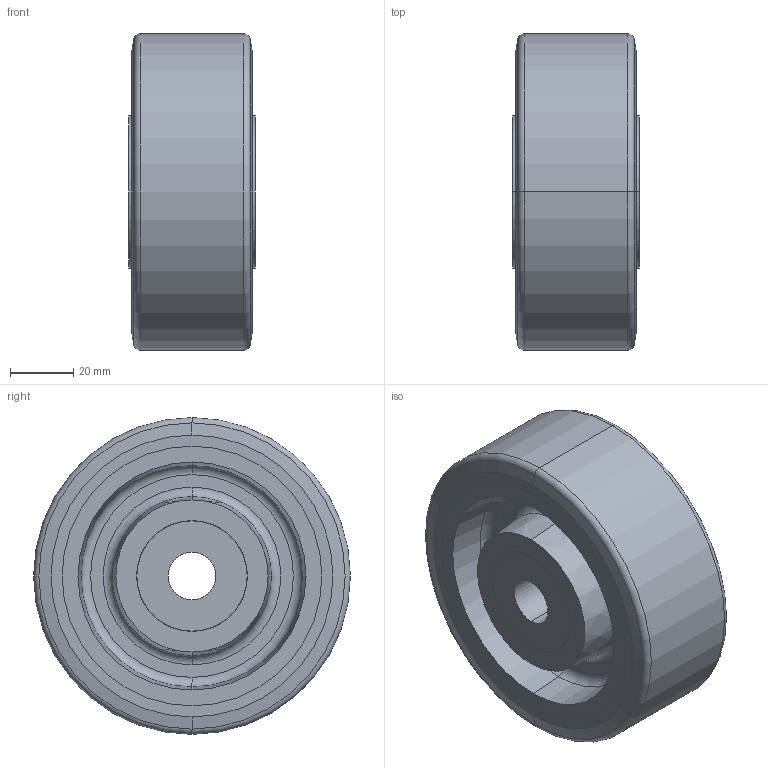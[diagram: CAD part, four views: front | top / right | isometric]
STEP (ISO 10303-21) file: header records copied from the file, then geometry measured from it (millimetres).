
FILE_DESCRIPTION (( 'STEP AP214' ), '1' );
FILE_NAME ('22887-100-K-A.step', '2024-10-28T09:26:58', ( '' ), ( '' ), 'SwSTEP 2.0', 'SolidWorks 2022', '' );
FILE_SCHEMA (( 'AUTOMOTIVE_DESIGN' ));
Length unit declared in the file: millimetre
Products named in the file (1): 22887-100-K-A
Bounding box: 40 x 100 x 100 mm (x, y, z)
Volume: 232087.8 mm3; surface area: 38681.7 mm2
Topology: 1 solids, 1 shells, 64 faces, 128 edges, 80 vertices
Faces by surface type: cylinder 24, plane 16, cone 12, torus 12
Entity records: 1976 total; most frequent: DIRECTION 350, CARTESIAN_POINT 273, ORIENTED_EDGE 256, AXIS2_PLACEMENT_3D 157, EDGE_CURVE 128, CIRCLE 92, VERTEX_POINT 80, EDGE_LOOP 80
